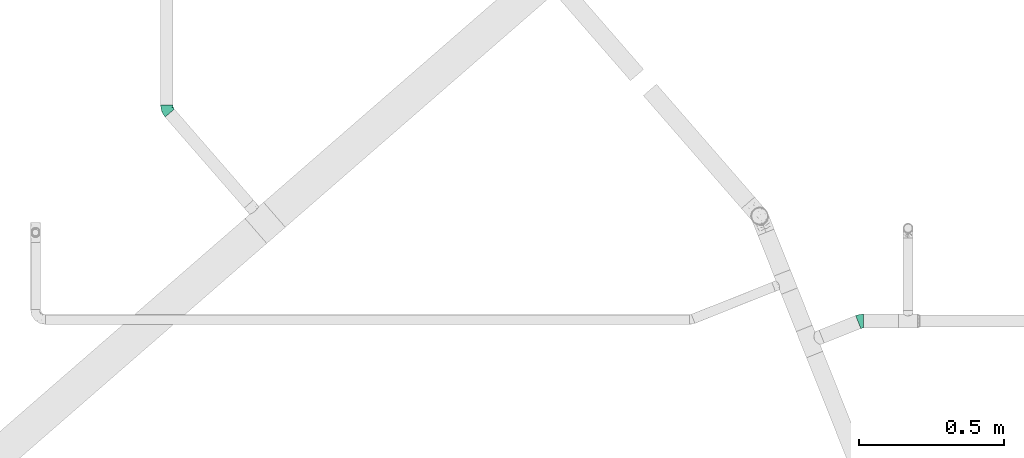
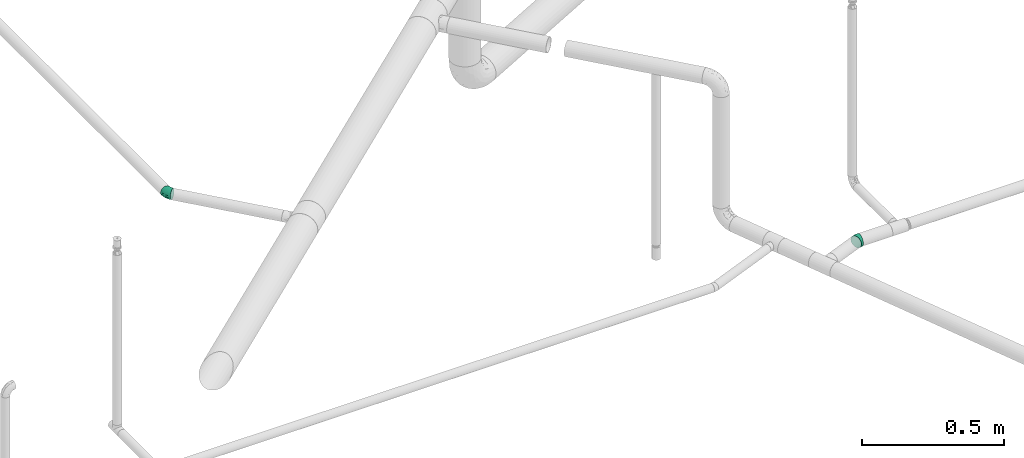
# One storey, part 93 of 94: 2 flow fittings.
"""IFC2X3 building model written with IfcOpenShell, lengths in millimetres."""

import ifcopenshell
import ifcopenshell.guid

model = None  # the IFC model being written
_history = None  # IfcOwnerHistory: only IFC2X3 demands one
_inside = {}  # id of a spatial element -> (the spatial element, [elements in it])
_under = {}  # id of a project, library or spatial element -> (it, [spatial elements below it])
_declared = {}  # id of a project -> (the project, [libraries it declares])
_typed = {}  # id of a type object -> (the type object, [elements of that type])
_made_of = {}  # id of a material, layer set ... -> (it, [elements and type objects made of it])


def new_model(schema):
    """Start an empty IFC model of exactly this schema.

    Asked for "IFC4X3", IfcOpenShell would pick the latest addendum, in which some entities
    have other attributes; the version numbers below select the first issue.
    IFC2X3 requires an IfcOwnerHistory on every rooted entity: one is made here for all.
    """
    global model, _history
    if schema == "IFC4X3":
        model = ifcopenshell.file(schema_version=(4, 3, 0, 0))
    else:
        model = ifcopenshell.file(schema=schema)
    _inside.clear()
    _under.clear()
    _declared.clear()
    _typed.clear()
    _made_of.clear()
    _history = None
    if model.schema == "IFC2X3":
        org = make("IfcOrganization", Name="unknown")
        user = make(
            "IfcPersonAndOrganization",
            ThePerson=make("IfcPerson", FamilyName="unknown"),
            TheOrganization=org,
        )
        app = make(
            "IfcApplication",
            ApplicationDeveloper=org,
            Version="unknown",
            ApplicationFullName="unknown",
            ApplicationIdentifier="unknown",
        )
        _history = make(
            "IfcOwnerHistory",
            OwningUser=user,
            OwningApplication=app,
            ChangeAction="ADDED",
            CreationDate=0,
        )
    return model


def make(cls, **values):
    """One entity of the class cls with the attributes given. An attribute that is None is left unset."""
    return model.create_entity(
        cls, **{name: value for name, value in values.items() if value is not None}
    )


def entity(cls, *values):
    """Any entity or typed value of the class cls, its attributes in the order of the schema. None: left unset."""
    e = model.create_entity(cls)
    for i, value in enumerate(values):
        if value is not None:
            e[i] = value
    return e


def rooted(cls, **values):
    """An entity with a GlobalId (a new one), such as an element, a storey or a relation."""
    return make(cls, GlobalId=ifcopenshell.guid.new(), OwnerHistory=_history, **values)


def si_unit(unit_type, name, prefix=None):
    """IfcSIUnit, for example si_unit("LENGTHUNIT", "METRE", prefix="MILLI")."""
    return make("IfcSIUnit", UnitType=unit_type, Prefix=prefix, Name=name)


def converted_unit(unit_type, name, factor, base, dimensions=None, offset=None):
    """IfcConversionBasedUnit, such as the inch: factor (a typed value) times the base unit."""
    return make(
        "IfcConversionBasedUnit"
        if offset is None
        else "IfcConversionBasedUnitWithOffset",
        ConversionOffset=offset,
        Dimensions=None
        if dimensions is None
        else entity("IfcDimensionalExponents", *dimensions),
        UnitType=unit_type,
        Name=name,
        ConversionFactor=make(
            "IfcMeasureWithUnit", ValueComponent=factor, UnitComponent=base
        ),
    )


def derived_unit(unit_type, elements):
    """IfcDerivedUnit: a product of units, each with its exponent."""
    return make(
        "IfcDerivedUnit",
        Elements=[
            make("IfcDerivedUnitElement", Unit=unit, Exponent=power)
            for unit, power in elements
        ],
        UnitType=unit_type,
    )


def assignment(units):
    """IfcUnitAssignment: the units of a project."""
    return None if units is None else make("IfcUnitAssignment", Units=units)


def point(xyz):
    """IfcCartesianPoint."""
    return None if xyz is None else make("IfcCartesianPoint", Coordinates=xyz)


def direction(xyz):
    """IfcDirection."""
    return None if xyz is None else make("IfcDirection", DirectionRatios=xyz)


def frame(location, z_axis=None, x_axis=None):
    """IfcAxis2Placement3D, a coordinate frame: its origin and axes. An axis left out is left unset."""
    return make(
        "IfcAxis2Placement3D",
        Location=point(location),
        Axis=direction(z_axis),
        RefDirection=direction(x_axis),
    )


def origin_with_axes():
    """The frame at (0, 0, 0) with the z axis (0, 0, 1) and the x axis (1, 0, 0) written out."""
    return frame((0.0, 0.0, 0.0), z_axis=(0.0, 0.0, 1.0), x_axis=(1.0, 0.0, 0.0))


def place(relative_to, where):
    """IfcLocalPlacement: puts the frame where relative to a parent placement (None: the world)."""
    return make(
        "IfcLocalPlacement", PlacementRelTo=relative_to, RelativePlacement=where
    )


def context(
    kind, dimensions, precision=None, world=None, true_north=None, identifier=None
):
    """IfcGeometricRepresentationContext, for example the 3D "Model" context."""
    return make(
        "IfcGeometricRepresentationContext",
        ContextIdentifier=identifier,
        ContextType=kind,
        CoordinateSpaceDimension=dimensions,
        Precision=precision,
        WorldCoordinateSystem=world,
        TrueNorth=true_north,
    )


def subcontext(parent, identifier, kind, view, scale=None):
    """IfcGeometricRepresentationSubContext, for example "Body" below "Model"."""
    return make(
        "IfcGeometricRepresentationSubContext",
        ContextIdentifier=identifier,
        ContextType=kind,
        ParentContext=parent,
        TargetScale=scale,
        TargetView=view,
    )


def project(units=None, contexts=None):
    """IfcProject with its units and contexts."""
    return rooted(
        "IfcProject",
        Name="project",
        RepresentationContexts=contexts,
        UnitsInContext=assignment(units),
    )


def spatial(cls, under=None, at=None, **own):
    """A site, building, storey or space (cls), placed at a placement, below another one or the project."""
    s = rooted(cls, ObjectPlacement=at, **own)
    if under is not None:
        _under.setdefault(under.id(), (under, []))[1].append(s)
    return s


def faces_of(points, faces, orient=None, outer=None):
    """IfcFace entities. A face is a list of loops; a loop is a list of indices into points, from 0.

    orient and outer hold one flag for each loop. By default every Orientation is true, the
    first loop of a face is its IfcFaceOuterBound and the others are IfcFaceBound.
    """
    made = []
    for i, loops in enumerate(faces):
        bounds = []
        for j, loop in enumerate(loops):
            is_outer = j == 0 if outer is None else outer[i][j]
            bounds.append(
                make(
                    "IfcFaceOuterBound" if is_outer else "IfcFaceBound",
                    Bound=make("IfcPolyLoop", Polygon=[points[k] for k in loop]),
                    Orientation=True if orient is None else orient[i][j],
                )
            )
        made.append(make("IfcFace", Bounds=bounds))
    return made


def open_shell(faces, orient=None, outer=None):
    """The faces of one IfcOpenShell. surface_model builds it on its shared points."""
    return ("IfcOpenShell", faces, orient, outer)


def surface_model(cls, points, shells):
    """IfcFaceBasedSurfaceModel or IfcShellBasedSurfaceModel (cls): surfaces that need not close."""
    shared = [point(p) for p in points]
    made = [make(c, CfsFaces=faces_of(shared, fs, o, b)) for c, fs, o, b in shells]
    if cls == "IfcFaceBasedSurfaceModel":
        return make(cls, FbsmFaces=made)
    return make(cls, SbsmBoundary=made)


def shape(context_of_items, identifier, shape_type, items):
    """IfcShapeRepresentation: the items that make up one representation, for example the "Body"."""
    return make(
        "IfcShapeRepresentation",
        ContextOfItems=context_of_items,
        RepresentationIdentifier=identifier,
        RepresentationType=shape_type,
        Items=items,
    )


def source(mapping_origin, context_of_items, identifier, shape_type, items):
    """IfcRepresentationMap: a shape defined once, which mapped items show again and again."""
    return make(
        "IfcRepresentationMap",
        MappingOrigin=mapping_origin,
        MappedRepresentation=shape(context_of_items, identifier, shape_type, items),
    )


def transform(
    local_origin,
    x_axis=None,
    y_axis=None,
    z_axis=None,
    scale=None,
    scale2=None,
    scale3=None,
    uniform=True,
):
    """IfcCartesianTransformationOperator3D, or its non-uniform kind. x_axis, y_axis, z_axis: its Axis1, 2, 3."""
    if uniform:
        return make(
            "IfcCartesianTransformationOperator3D",
            Axis1=direction(x_axis),
            Axis2=direction(y_axis),
            LocalOrigin=point(local_origin),
            Scale=scale,
            Axis3=direction(z_axis),
        )
    return make(
        "IfcCartesianTransformationOperator3DnonUniform",
        Axis1=direction(x_axis),
        Axis2=direction(y_axis),
        LocalOrigin=point(local_origin),
        Scale=scale,
        Axis3=direction(z_axis),
        Scale2=scale2,
        Scale3=scale3,
    )


def mapped(mapping_source, mapping_target):
    """IfcMappedItem: shows the shape of a source again, moved by a transform."""
    return make(
        "IfcMappedItem", MappingSource=mapping_source, MappingTarget=mapping_target
    )


def made_of(thing, what):
    """Note that an element or type object is made of a material, layer set ...; save() writes the relation."""
    if what is not None:
        _made_of.setdefault(what.id(), (what, []))[1].append(thing)
    return thing


def type_object(cls, material=None, **own):
    """A type object (cls), such as IfcWallType, which elements share."""
    return made_of(rooted(cls, **own), material)


def element(
    cls,
    number,
    at=None,
    inside=None,
    cuts=None,
    type_object=None,
    material=None,
    context=None,
    identifier="Body",
    shape_type=None,
    held_by="IfcProductDefinitionShape",
    body=None,
    shapes=None,
    **own,
):
    """One element of the class cls, such as IfcWall. Its Tag is "e" and its number.

    at: its placement. inside: the storey or other place that contains it. cuts: it is an
    opening in that element (IfcRelVoidsElement). A single representation is given by context,
    identifier, shape_type and body (its items); several are given by shapes. held_by: the class
    of the entity that holds the representations. save() writes the other relations.
    """
    e = rooted(cls, Tag="e%d" % number, ObjectPlacement=at, **own)
    if body is not None:
        shapes = [shape(context, identifier, shape_type, body)]
    if shapes is not None:
        e.Representation = make(held_by, Representations=shapes)
    if inside is not None:
        _inside.setdefault(inside.id(), (inside, []))[1].append(e)
    if cuts is not None:
        rooted(
            "IfcRelVoidsElement", RelatingBuildingElement=cuts, RelatedOpeningElement=e
        )
    if type_object is not None:
        _typed.setdefault(type_object.id(), (type_object, []))[1].append(e)
    return made_of(e, material)


def aggregate(whole, parts):
    """IfcRelAggregates: a whole, such as a stair, and the parts it consists of."""
    return rooted("IfcRelAggregates", RelatingObject=whole, RelatedObjects=parts)


def save(model, path):
    """Write the relations noted so far, then the file.

    IfcRelAggregates (storeys below a building ...), IfcRelContainedInSpatialStructure (elements
    in a storey), IfcRelDefinesByType, IfcRelAssociatesMaterial and IfcRelDeclares: one each for
    every whole, place, type object, material and project.
    """
    for whole, parts in _under.values():
        aggregate(whole, parts)
    for where, things in _inside.values():
        rooted(
            "IfcRelContainedInSpatialStructure",
            RelatedElements=things,
            RelatingStructure=where,
        )
    for kind, things in _typed.values():
        rooted("IfcRelDefinesByType", RelatedObjects=things, RelatingType=kind)
    for what, things in _made_of.values():
        rooted("IfcRelAssociatesMaterial", RelatedObjects=things, RelatingMaterial=what)
    for by, libraries in _declared.values():
        rooted("IfcRelDeclares", RelatingContext=by, RelatedDefinitions=libraries)
    model.write(path)


model = new_model("IFC2X3")

# Units and contexts
model_context = context("Model", 3, precision=0.01, world=frame((0.0, 4.29681676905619e-09, 0.0)), true_north=direction((4.01073788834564e-13, 1.0)))
plan_context = context("Plan", 3, precision=0.01, world=frame((0.0, 4.29681676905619e-09, 0.0)), true_north=direction((4.01073788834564e-13, 1.0)))
body_context = subcontext(model_context, "Body", "Model", "MODEL_VIEW")
ifc_project = project(units=[converted_unit("PLANEANGLEUNIT", "DEGREE", entity("IfcPositiveLengthMeasure", 0.0174532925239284), si_unit("PLANEANGLEUNIT", "RADIAN"), dimensions=[0, 0, 0, 0, 0, 0, 0]), si_unit("AREAUNIT", "SQUARE_METRE"), si_unit("LENGTHUNIT", "METRE", prefix="MILLI"), si_unit("MASSUNIT", "GRAM", prefix="KILO"), si_unit("POWERUNIT", "WATT"), si_unit("PRESSUREUNIT", "PASCAL", prefix="KILO"), si_unit("FORCEUNIT", "NEWTON", prefix="KILO"), si_unit("ELECTRICVOLTAGEUNIT", "VOLT"), si_unit("ELECTRICCURRENTUNIT", "AMPERE"), si_unit("THERMODYNAMICTEMPERATUREUNIT", "DEGREE_CELSIUS"), si_unit("TIMEUNIT", "SECOND"), si_unit("VOLUMEUNIT", "CUBIC_METRE"), derived_unit("LINEARVELOCITYUNIT", [(si_unit("LENGTHUNIT", "METRE"), 1), (si_unit("TIMEUNIT", "SECOND"), -1)]), derived_unit("VOLUMETRICFLOWRATEUNIT", [(si_unit("VOLUMEUNIT", "CUBIC_METRE"), 1), (si_unit("TIMEUNIT", "SECOND"), -1)]), derived_unit("THERMALTRANSMITTANCEUNIT", [(si_unit("POWERUNIT", "WATT"), 1), (si_unit("THERMODYNAMICTEMPERATUREUNIT", "KELVIN"), -1), (si_unit("AREAUNIT", "SQUARE_METRE"), -1)]), derived_unit("SOUNDPRESSUREUNIT", [(si_unit("PRESSUREUNIT", "PASCAL"), 1)])], contexts=[model_context, plan_context])

# Site, building, storey
site_placement = place(None, frame((0.0, -4.29681676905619e-09, 0.0), z_axis=(0.0, 0.0, 1.0), x_axis=(1.0, 0.0, 0.0)))
site = spatial("IfcSite", under=ifc_project, at=site_placement, CompositionType="ELEMENT")
building_placement = place(site_placement, frame((0.0, 4.29681676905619e-09, 0.0), z_axis=(0.0, 0.0, 1.0), x_axis=(1.0, 0.0, 0.0)))
building = spatial("IfcBuilding", under=site, at=building_placement, Name="mc-building", CompositionType="ELEMENT")
storey_placement = place(building_placement, frame((0.0, 0.0, 210900.0), z_axis=(0.0, 0.0, 1.0), x_axis=(1.0, 0.0, 0.0)))
storey = spatial("IfcBuildingStorey", under=building, at=storey_placement, Name="Nivå F", CompositionType="ELEMENT", Elevation=210900.0)

# Flow fittings
pipe_fitting_type = type_object("IfcPipeFittingType", Name="magi_pipe_fe_elbow_short_001", PredefinedType="BEND")
shared_shape_1 = source(origin_with_axes(), body_context, "Body", "SurfaceModel", [
    surface_model("IfcShellBasedSurfaceModel", [(-9.26863, 6.26342, -23.37541), (-9.26863, 0.0, -24.2), (-9.26863, 17.11198, -17.11198), (-9.26863, 12.1, -20.95781), (-9.26863, 20.95781, -12.1), (-9.26863, 24.2, 0.0), (-9.26863, -12.1, -20.95781), (-9.26863, -23.37541, -6.26342), (-9.26863, 12.1, 20.95781), (-9.26863, -17.11198, -17.11198), (-9.26863, -20.95781, -12.1), (-9.26863, -6.26342, -23.37541), (-9.26863, -24.2, 0.0), (-9.26863, -23.37541, 6.26342), (-9.26863, 23.37541, -6.26342), (-9.26863, 23.37541, 6.26342), (-9.26863, 20.95781, 12.1), (-9.26863, 6.26342, 23.37541), (-9.26863, 17.11198, 17.11198), (-9.26863, -12.1, 20.95781), (-9.26863, -20.95781, 12.1), (-9.26863, -17.11198, 17.11198), (-9.26863, -6.26342, 23.37541), (-9.26863, 0.0, 24.2), (-0.02323, 25.1459, -6.26342), (8.61287, 3.42432, -24.2), (6.29883, 9.2446, -23.37541), (4.14249, 14.66824, -20.95781), (2.29081, 19.32562, -17.11198), (0.86995, 22.89936, -12.1), (17.55362, -19.06353, 0.0), (0.86995, 22.89936, 12.1), (13.08324, -7.8196, -20.95781), (16.35578, -16.05073, -12.1), (14.93493, -12.47699, -17.11198), (10.9269, -2.39597, -23.37541), (17.24897, -18.29727, -6.26342), (-0.32788, 25.91216, 0.0), (-0.02323, 25.1459, 6.26342), (6.29883, 9.2446, 23.37541), (4.14249, 14.66824, 20.95781), (2.29081, 19.32562, 17.11198), (14.93493, -12.47699, 17.11198), (16.35578, -16.05073, 12.1), (17.24897, -18.29727, 6.26342), (10.9269, -2.39597, 23.37541), (13.08324, -7.8196, 20.95781), (8.61287, 3.42432, 24.2), (2.65488, -13.86359, 18.99448), (2.57443, -18.35614, 14.46849), (4.06649, -21.2349, 8.90949), (1.63017, -8.51263, 22.23733), (0.48221, -2.51807, 23.95378), (-0.7102, 3.70862, 24.02603), (-4.71702, 24.63189, 0.0), (0.46035, -23.1125, 4.53509), (4.38619, -22.90432, 0.0), (0.48221, -2.51807, -23.95378), (1.63017, -8.51263, -22.23733), (4.38943, -18.00857, -14.46849), (4.06649, -21.2349, -8.90949), (-0.7102, 3.70862, -24.02603), (2.65488, -13.86359, -18.99448), (8.11119, -21.64736, -4.53509)], [open_shell([[[0, 1, 2]], [[3, 0, 2]], [[4, 2, 5]], [[6, 2, 1]], [[2, 7, 8]], [[9, 10, 6]], [[1, 11, 6]], [[10, 7, 6]], [[6, 7, 2]], [[12, 13, 7]], [[4, 5, 14]], [[8, 15, 2]], [[16, 15, 8]], [[8, 7, 17]], [[18, 16, 8]], [[7, 19, 17]], [[20, 21, 13]], [[21, 7, 13]], [[22, 23, 19]], [[21, 19, 7]], [[19, 23, 17]], [[15, 5, 2]], [[24, 25, 26]], [[24, 26, 27]], [[28, 29, 24]], [[28, 24, 27]], [[30, 25, 31]], [[32, 33, 34]], [[32, 35, 25]], [[33, 30, 36]], [[30, 33, 32]], [[25, 30, 32]], [[25, 24, 37]], [[37, 38, 31]], [[31, 39, 30]], [[40, 39, 31]], [[40, 31, 41]], [[30, 39, 42]], [[30, 43, 44]], [[42, 43, 30]], [[42, 45, 46]], [[45, 42, 47]], [[39, 47, 42]], [[25, 37, 31]], [[48, 21, 49]], [[19, 21, 48]], [[21, 20, 49]], [[44, 43, 50]], [[20, 50, 49]], [[22, 19, 51]], [[48, 51, 19]], [[23, 22, 52]], [[23, 53, 17]], [[43, 49, 50]], [[50, 20, 13]], [[42, 46, 48]], [[16, 18, 31]], [[8, 41, 18]], [[45, 47, 52]], [[51, 52, 22]], [[47, 39, 53]], [[54, 15, 38]], [[55, 50, 13]], [[54, 5, 15]], [[38, 15, 16]], [[12, 55, 13]], [[40, 8, 17]], [[52, 53, 23]], [[12, 56, 55]], [[46, 45, 51]], [[52, 51, 45]], [[46, 51, 48]], [[53, 52, 47]], [[42, 48, 49]], [[42, 49, 43]], [[56, 30, 44]], [[31, 38, 16]], [[37, 54, 38]], [[40, 17, 39]], [[8, 40, 41]], [[31, 18, 41]], [[17, 53, 39]], [[44, 50, 55]], [[44, 55, 56]], [[1, 57, 11]], [[58, 57, 35]], [[10, 59, 60]], [[1, 0, 61]], [[28, 2, 4]], [[62, 58, 32]], [[2, 28, 3]], [[63, 60, 36]], [[14, 24, 4]], [[34, 33, 59]], [[57, 61, 25]], [[3, 26, 0]], [[56, 12, 7]], [[7, 60, 63]], [[62, 9, 6]], [[7, 63, 56]], [[7, 10, 60]], [[10, 9, 59]], [[58, 6, 11]], [[14, 5, 54]], [[54, 37, 24]], [[58, 11, 57]], [[24, 29, 4]], [[28, 4, 29]], [[9, 62, 59]], [[3, 27, 26]], [[62, 6, 58]], [[33, 60, 59]], [[3, 28, 27]], [[57, 1, 61]], [[25, 61, 26]], [[58, 35, 32]], [[26, 61, 0]], [[30, 63, 36]], [[62, 32, 34]], [[33, 36, 60]], [[30, 56, 63]], [[34, 59, 62]], [[35, 57, 25]], [[14, 54, 24]]])]),
])
flow_fitting_1_placement = place(storey_placement, frame((719058.28055, 440878.08755, 3600.0), z_axis=(0.0, 0.0, 1.0), x_axis=(-1.0, 0.0, 0.0)))
element("IfcFlowFitting", 1, at=flow_fitting_1_placement, inside=storey, type_object=pipe_fitting_type, Name="magi_pipe_fe_elbow_short_001", context=body_context, shape_type="MappedRepresentation", body=[
    mapped(shared_shape_1, transform((0.0, 0.0, 0.0), scale=1.0)),
])
shared_shape_2 = source(origin_with_axes(), body_context, "Body", "SurfaceModel", [
    surface_model("IfcShellBasedSurfaceModel", [(-15.85271, 10.6, -18.35974), (-15.85271, 5.48696, -20.47763), (-15.85271, 0.0, -21.2), (-15.85271, 14.99066, -14.99066), (-15.85271, 20.47763, -5.48696), (-15.85271, 18.35974, -10.6), (-15.85271, -14.99066, 14.99066), (-15.85271, -21.2, 0.0), (-15.85271, -10.6, -18.35974), (-15.85271, -14.99066, -14.99066), (-15.85271, -5.48696, -20.47763), (-15.85271, -20.47763, -5.48696), (-15.85271, -18.35974, -10.6), (-15.85271, 10.6, 18.35974), (-15.85271, 20.47763, 5.48696), (-15.85271, 18.35974, 10.6), (-15.85271, 14.99066, 14.99066), (-15.85271, 0.0, 21.2), (-15.85271, 5.48696, 20.47763), (-15.85271, -20.47763, 5.48696), (-15.85271, -18.35974, 10.6), (-15.85271, -10.6, 18.35974), (-15.85271, -5.48696, 20.47763), (-15.85271, 21.2, 0.0), (11.96419, 10.40031, -21.2), (8.36442, 14.54138, -20.47763), (5.00997, 18.40023, -18.35974), (18.91842, 2.40039, -18.35974), (2.12943, 21.71391, -14.99066), (-0.08088, 24.25658, -10.6), (-1.47034, 25.85498, -5.48696), (21.79895, -0.91328, 14.99066), (21.79895, -0.91328, -14.99066), (15.56396, 6.25925, -20.47763), (24.00927, -3.45596, -10.6), (25.87264, -5.59953, 0.0), (25.39872, -5.05435, -5.48696), (25.39872, -5.05435, 5.48696), (-1.47034, 25.85498, 5.48696), (2.12943, 21.71391, 14.99066), (-0.08088, 24.25658, 10.6), (5.00997, 18.40023, 18.35974), (8.36442, 14.54138, 20.47763), (24.00927, -3.45596, 10.6), (15.56396, 6.25925, 20.47763), (18.91842, 2.40039, 18.35974), (11.96419, 10.40031, 21.2), (-1.94426, 26.40016, 0.0), (-6.03482, -16.31129, 12.49489), (2.14862, -5.74676, 19.19389), (-7.68525, -7.85323, 19.41585), (-3.64689, -12.05647, 16.42182), (15.25571, -8.35109, 12.49489), (-5.08422, -2.0706, 20.93271), (-4.71612, -19.18618, 0.0), (3.24306, -17.83593, 4.14765), (-4.53239, -19.82289, 3.86733), (-1.68488, 4.50642, 21.11064), (-9.72137, 2.88911, 21.06186), (5.44139, 8.55823, 21.06186), (-2.90111, -18.4782, 7.46917), (5.11587, -13.68302, 12.00303), (10.95231, -0.88493, 19.41585), (-5.33127, 14.25914, 17.2266), (-6.0625, 18.39108, 13.34627), (18.72785, -10.50164, 4.09242), (14.31229, -12.04237, 7.46917), (5.85212, -15.6522, 8.135), (-7.78859, 20.83153, 8.60902), (-8.04198, 22.1955, 4.40034), (-6.68775, 8.82001, 19.79406), (11.2419, -14.75084, 3.84605), (5.75879, 2.11018, 20.93841), (10.66209, -6.70656, 16.42182), (1.23129, 12.22251, 19.74351), (-8.42831, 22.54255, 0.0), (6.42048, -17.17235, 0.0), (16.14656, -11.38594, 0.0), (-5.73062, -2.18553, -20.93841), (-7.24439, -20.21226, -4.09242), (-2.90111, -18.4782, -7.46917), (5.19554, 1.77284, -20.93271), (-9.72137, 2.88911, -21.06186), (-7.49021, 17.85728, -13.34627), (-5.33127, 14.25913, -17.2266), (10.66209, -6.70656, -16.42182), (14.31229, -12.04237, -7.46917), (-8.4922, 22.02717, -4.40034), (-7.78859, 20.83153, -8.60902), (1.19305, -18.50795, -3.84604), (5.85212, -15.6522, -8.135), (9.25386, -15.58858, -4.14765), (-0.73914, 11.04411, -19.79406), (-8.94795, 8.41665, -19.74351), (-6.03482, -16.31129, -12.49489), (-3.64689, -12.05647, -16.42182), (5.11587, -13.68302, -12.00303), (-7.68525, -7.85323, -19.41585), (10.95231, -0.88493, -19.41585), (2.14862, -5.74676, -19.19389), (16.42563, -11.98701, -3.86733), (-1.68488, 4.50642, -21.11064), (5.44139, 8.55823, -21.06186), (15.25571, -8.35109, -12.49489)], [open_shell([[[0, 1, 2]], [[3, 0, 2]], [[4, 5, 3]], [[2, 4, 3]], [[6, 2, 7]], [[8, 9, 10]], [[9, 2, 10]], [[11, 7, 12]], [[12, 2, 9]], [[12, 7, 2]], [[6, 4, 2]], [[13, 14, 4]], [[15, 14, 16]], [[13, 4, 6]], [[16, 14, 13]], [[13, 17, 18]], [[19, 20, 7]], [[7, 20, 6]], [[21, 22, 6]], [[17, 6, 22]], [[6, 17, 13]], [[23, 4, 14]], [[24, 25, 26]], [[27, 24, 26]], [[28, 29, 30]], [[28, 30, 26]], [[31, 27, 26]], [[27, 31, 32]], [[27, 33, 24]], [[34, 35, 36]], [[37, 35, 34]], [[32, 37, 34]], [[30, 38, 26]], [[26, 38, 31]], [[39, 38, 40]], [[38, 41, 31]], [[41, 38, 39]], [[42, 31, 41]], [[37, 31, 43]], [[32, 31, 37]], [[31, 44, 45]], [[44, 31, 46]], [[42, 46, 31]], [[38, 30, 47]], [[20, 48, 6]], [[49, 50, 51]], [[21, 6, 51]], [[43, 31, 52]], [[17, 22, 53]], [[22, 21, 50]], [[54, 55, 56]], [[57, 58, 53]], [[17, 58, 18]], [[46, 42, 59]], [[48, 60, 61]], [[45, 44, 62]], [[63, 64, 16]], [[63, 16, 13]], [[65, 37, 66]], [[60, 67, 61]], [[41, 39, 63]], [[68, 69, 14]], [[20, 19, 60]], [[23, 14, 69]], [[14, 15, 68]], [[48, 51, 6]], [[70, 63, 13]], [[13, 18, 70]], [[7, 54, 56]], [[71, 67, 55]], [[72, 57, 53]], [[31, 45, 73]], [[16, 64, 15]], [[72, 44, 46]], [[49, 72, 53]], [[66, 43, 52]], [[57, 59, 74]], [[73, 45, 62]], [[72, 46, 59]], [[66, 71, 65]], [[64, 68, 15]], [[58, 70, 18]], [[69, 68, 38]], [[75, 69, 47]], [[52, 73, 61]], [[51, 73, 49]], [[55, 54, 76]], [[42, 41, 74]], [[49, 62, 72]], [[40, 64, 39]], [[68, 64, 40]], [[39, 64, 63]], [[63, 70, 74]], [[50, 53, 22]], [[37, 65, 35]], [[37, 43, 66]], [[40, 38, 68]], [[73, 51, 61]], [[60, 48, 20]], [[51, 48, 61]], [[73, 52, 31]], [[66, 52, 61]], [[51, 50, 21]], [[53, 50, 49]], [[72, 62, 44]], [[73, 62, 49]], [[63, 74, 41]], [[57, 74, 70]], [[47, 69, 38]], [[69, 75, 23]], [[53, 58, 17]], [[70, 58, 57]], [[74, 59, 42]], [[72, 59, 57]], [[55, 67, 60]], [[66, 61, 67]], [[55, 60, 56]], [[77, 65, 71]], [[60, 19, 56]], [[7, 56, 19]], [[66, 67, 71]], [[35, 65, 77]], [[55, 76, 71]], [[77, 71, 76]], [[10, 2, 78]], [[79, 11, 80]], [[24, 33, 81]], [[2, 1, 82]], [[83, 84, 3]], [[27, 32, 85]], [[5, 83, 3]], [[34, 36, 86]], [[4, 87, 88]], [[89, 90, 91]], [[26, 25, 92]], [[1, 0, 93]], [[80, 89, 79]], [[83, 88, 29]], [[30, 29, 88]], [[94, 80, 12]], [[9, 8, 95]], [[95, 85, 96]], [[11, 12, 80]], [[9, 94, 12]], [[97, 8, 10]], [[94, 95, 96]], [[91, 77, 76]], [[98, 81, 33]], [[23, 75, 87]], [[99, 78, 81]], [[47, 30, 87]], [[88, 83, 5]], [[77, 91, 100]], [[88, 5, 4]], [[83, 28, 84]], [[97, 95, 8]], [[92, 84, 26]], [[101, 81, 78]], [[84, 92, 93]], [[3, 84, 0]], [[86, 90, 96]], [[24, 102, 25]], [[98, 33, 27]], [[28, 26, 84]], [[103, 85, 32]], [[85, 99, 98]], [[86, 96, 103]], [[99, 97, 78]], [[35, 77, 100]], [[28, 83, 29]], [[102, 92, 25]], [[103, 32, 34]], [[85, 95, 99]], [[102, 81, 101]], [[101, 82, 93]], [[30, 88, 87]], [[78, 2, 82]], [[11, 79, 7]], [[95, 94, 9]], [[80, 94, 96]], [[86, 103, 34]], [[85, 103, 96]], [[78, 97, 10]], [[95, 97, 99]], [[85, 98, 27]], [[81, 98, 99]], [[84, 93, 0]], [[101, 93, 92]], [[23, 87, 4]], [[87, 75, 47]], [[93, 82, 1]], [[78, 82, 101]], [[81, 102, 24]], [[92, 102, 101]], [[91, 90, 86]], [[80, 96, 90]], [[91, 86, 100]], [[54, 79, 89]], [[86, 36, 100]], [[35, 100, 36]], [[80, 90, 89]], [[7, 79, 54]], [[91, 76, 89]], [[54, 89, 76]]])]),
])
flow_fitting_2_placement = place(storey_placement, frame((716666.80992, 441606.84511, 4200.0), z_axis=(0.0, 0.0, 1.0), x_axis=(0.0, -1.0, 0.0)))
element("IfcFlowFitting", 2, at=flow_fitting_2_placement, inside=storey, type_object=pipe_fitting_type, Name="magi_pipe_fe_elbow_short_001", context=body_context, shape_type="MappedRepresentation", body=[
    mapped(shared_shape_2, transform((0.0, 0.0, 0.0), scale=1.0)),
])

save(model, "model.ifc")
